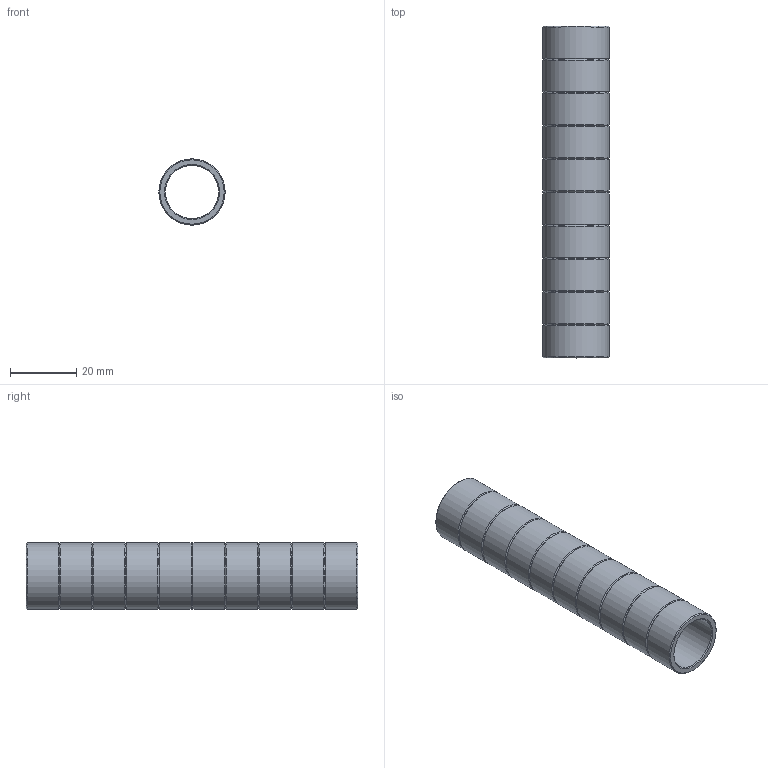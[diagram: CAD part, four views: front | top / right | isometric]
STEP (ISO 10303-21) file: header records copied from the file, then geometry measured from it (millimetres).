
FILE_DESCRIPTION(/* description */ ('Extension Tube'),/* implementation_level */ '2;1');
FILE_NAME(/* name */ 'ET-20-100.STEP',/* time_stamp */ '2026-02-10T14:39:40-05:00',/* author */ ('Design2'),/* organization */ ('CCS Design LLC'),/* preprocessor_version */ 'ST-DEVELOPER v20',/* originating_system */ 'Autodesk Inventor 2025',/* authorisation */ '');
FILE_SCHEMA (('AUTOMOTIVE_DESIGN { 1 0 10303 214 3 1 1 }'));
Length unit declared in the file: inch
Products named in the file (1): ET-20-100
Bounding box: 20 x 100 x 20 mm (x, y, z)
Volume: 11249.2 mm3; surface area: 11629.5 mm2
Topology: 1 solids, 1 shells, 35 faces, 87 edges, 54 vertices
Faces by surface type: cone 22, cylinder 11, plane 2
Full cylindrical faces by diameter (mm): 16 x1, 20 x10
Entity records: 1108 total; most frequent: DIRECTION 213, CARTESIAN_POINT 177, ORIENTED_EDGE 174, AXIS2_PLACEMENT_3D 90, EDGE_CURVE 87, CIRCLE 54, VERTEX_POINT 54, EDGE_LOOP 37
